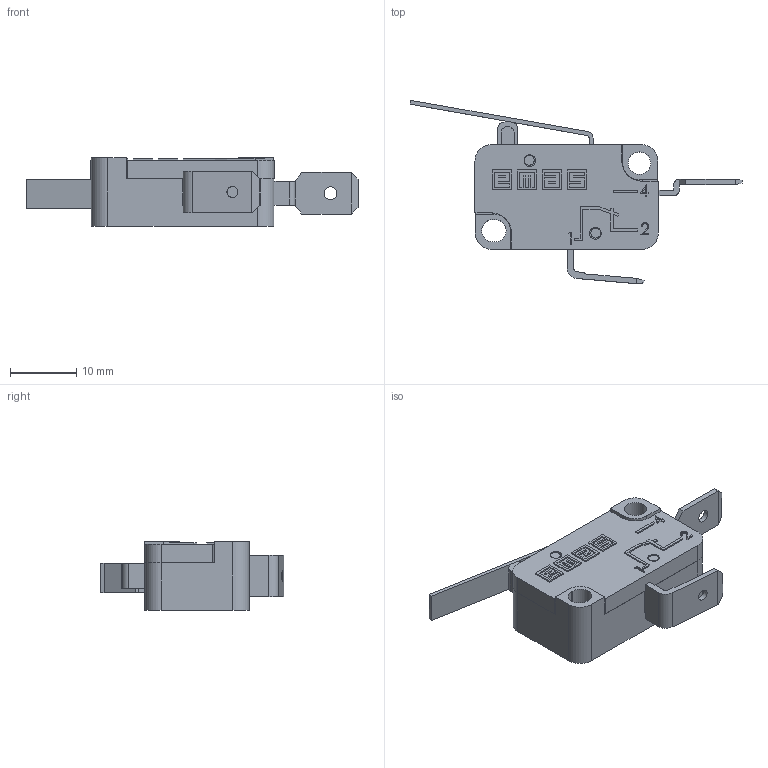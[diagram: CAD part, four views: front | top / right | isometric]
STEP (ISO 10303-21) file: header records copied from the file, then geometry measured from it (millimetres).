
FILE_DESCRIPTION((''),'2; 1');
FILE_NAME('','2026-03-27T16:18:56',(''),(''),'CST STEP Exporter V1.0','Unknown','');
FILE_SCHEMA(('CONFIG_CONTROL_DESIGN'));
Length unit declared in the file: metre
Assembly tree (9 placements, depth 2):
  (unnamed)
    (unnamed)
    (unnamed)
    (unnamed)
    (unnamed)
    (unnamed)
    (unnamed)
    (unnamed)
    (unnamed)
    (unnamed)
Bounding box: 50.17 x 27.7 x 10.4 mm (x, y, z)
Surface area: 6880.1 mm2 (no closed solid volume)
Topology: 0 solids, 9 shells, 268 faces, 983 edges, 738 vertices
Faces by surface type: plane 229, cylinder 33, extrusion 6
Full cylindrical faces by diameter (mm): 1.5 x2, 1.7 x1, 1.75 x2, 1.95 x1, 3.4 x1
Entity records: 12787 total; most frequent: CARTESIAN_POINT 2169, DIRECTION 1632, ORIENTED_EDGE 1611, EDGE_CURVE 974, VECTOR 822, LINE 816, VERTEX_POINT 736, AXIS2_PLACEMENT_3D 405
